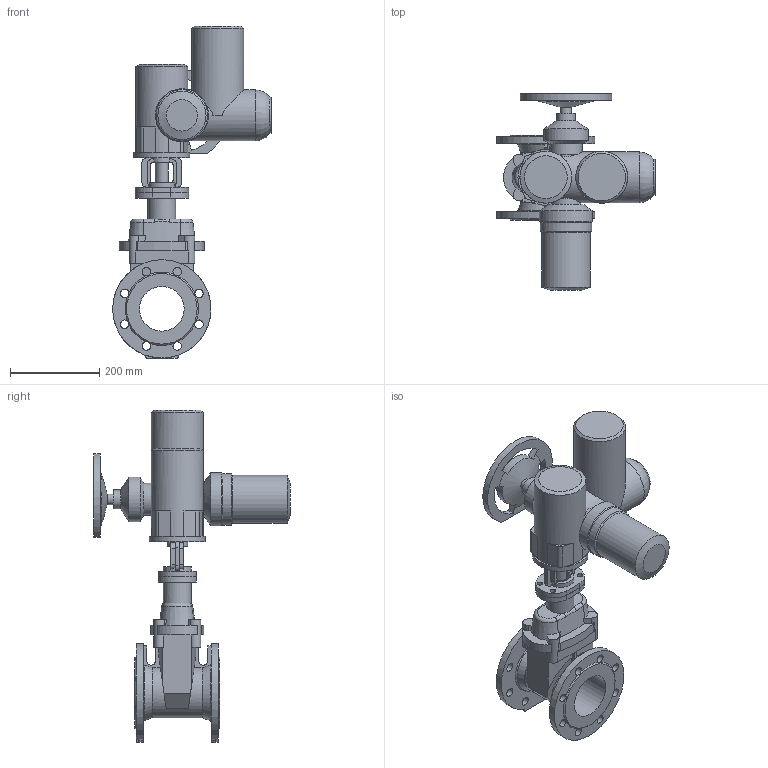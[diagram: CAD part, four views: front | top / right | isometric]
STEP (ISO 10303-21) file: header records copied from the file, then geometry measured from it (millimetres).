
FILE_DESCRIPTION(('STEP AP203'), '1');
FILE_NAME('青溻桄赅 47GV.M DN100 + MT903.A07', '', ('UNSPECIFIED'), ('UNSPECIFIED'), 'ASCON STEP Converter 1.6', 'ASCON Math Kernel', '');
FILE_SCHEMA(('CONFIG_CONTROL_DESIGN'));
Length unit declared in the file: millimetre
Bounding box: 355 x 440 x 743 mm (x, y, z)
Volume: 12265536.9 mm3; surface area: 821044.4 mm2
Topology: 1 solids, 1 shells, 322 faces, 902 edges, 587 vertices
Faces by surface type: plane 161, cylinder 130, cone 18, torus 11, bspline 2
Full cylindrical faces by diameter (mm): 8.5 x4, 12 x8, 19 x16, 20 x2, 24 x1, 29 x1, 30 x1, 42 x1, 46 x1, 62 x1, 66 x1, 70 x2, 72 x1, 80 x1, 100 x2, 108 x1, 114 x1, 115 x1, 116 x2, 119 x1, 125 x1, 220 x2
Entity records: 16467 total; most frequent: CARTESIAN_POINT 5553, DIRECTION 1778, ORIENTED_EDGE 1672, EDGE_CURVE 836, AXIS2_PLACEMENT_3D 709, VERTEX_POINT 587, EDGE_LOOP 445, CIRCLE 388
